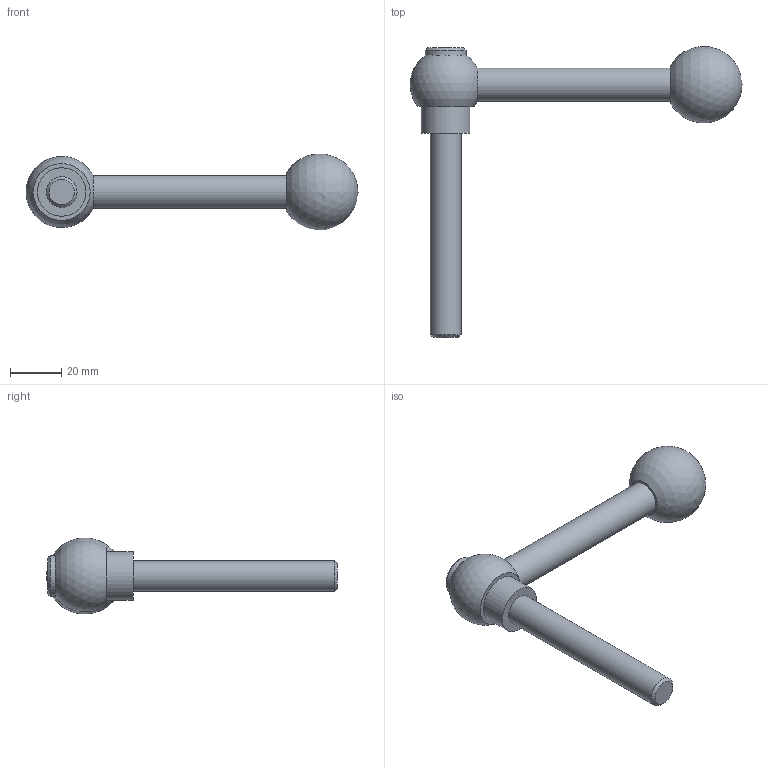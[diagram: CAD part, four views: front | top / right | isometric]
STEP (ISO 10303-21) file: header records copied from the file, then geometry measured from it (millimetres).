
FILE_DESCRIPTION( ( 'STEP AP203' ), '1' );
FILE_NAME( 'C:/Temp/Ganter_Step_05_03_2020/data/2_1/gn_6337_3/gn_6337_3_ms/gn_6337_3_ms_m/Adjustable clamping lever with bolt GN 6337.3-28-M12-80-M.stp', '2020-03-05T11:41:16', ( 'License CC BY-ND 4.0' ), ( 'CADENAS' ), ' ', 'PARTsolutions', ' ' );
FILE_SCHEMA( ( 'CONFIG_CONTROL_DESIGN' ) );
Length unit declared in the file: millimetre
Products named in the file (1): _Adjustable clamping lever with bolt GN 6337.3-28-M12-80-M
Bounding box: 129.99 x 113.93 x 29.7 mm (x, y, z)
Volume: 46543.8 mm3; surface area: 11714.6 mm2
Topology: 1 solids, 1 shells, 13 faces, 26 edges, 17 vertices
Faces by surface type: plane 5, cylinder 4, cone 2, sphere 2
Full cylindrical faces by diameter (mm): 12 x1, 13 x1, 15.969 x1, 19 x1
Entity records: 302 total; most frequent: DIRECTION 52, CARTESIAN_POINT 39, AXIS2_PLACEMENT_3D 26, EDGE_LOOP 24, ORIENTED_EDGE 24, FACE_OUTER_BOUND 18, ADVANCED_FACE 13, VERTEX_POINT 13
